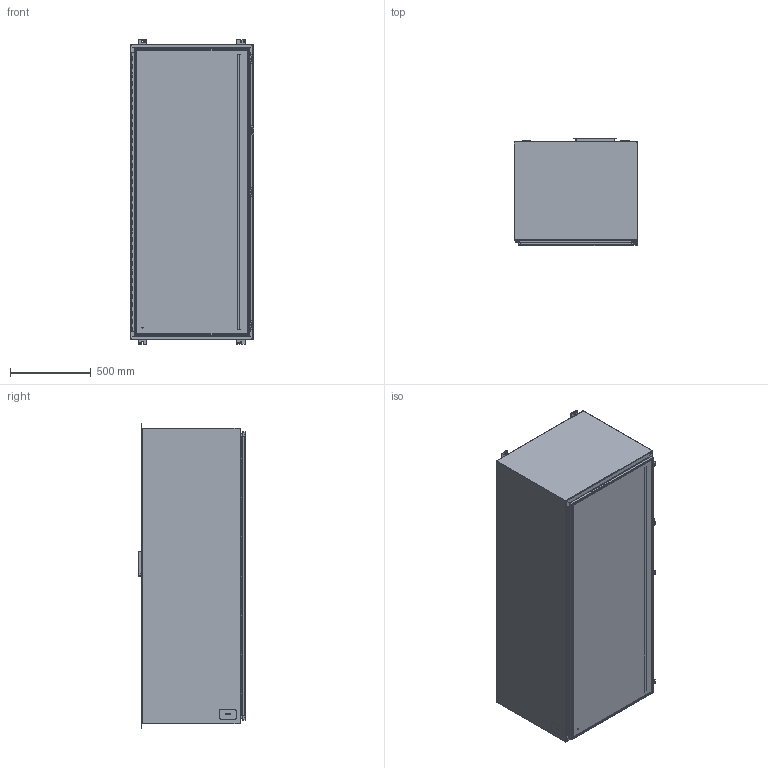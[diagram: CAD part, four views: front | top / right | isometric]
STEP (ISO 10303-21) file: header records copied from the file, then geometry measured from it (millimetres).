
FILE_DESCRIPTION(/* description */ ('Unknown'),/* implementation_level */ '2;1');
FILE_NAME(/* name */ '1418U24LP',/* time_stamp */ '2026-02-20T16:38:28-05:00',/* author */ ('Unknown'),/* organization */ ('Unknown'),/* preprocessor_version */ 'ST-DEVELOPER v18.104',/* originating_system */ 'Solid Edge',/* authorisation */ 'Unknown');
FILE_SCHEMA (('AUTOMOTIVE_DESIGN {1 0 10303 214 3 1 1}'));
Length unit declared in the file: millimetre
Products named in the file (32): 1418U24LP; STD26094; STD21878; COM42780; AKT90223; SPR20265; SCC19011; WAF25035; COM42667; COM40153-1; COM71781-1; COM40153-2; COM70219_oa_0; PNT11078; COM54746-68; COM53845-5; COM48505; FET07710; BUL10020; QLB30109; PKT99; KIT90256; LAB30005; NTS165305; NTS16535; KIT90519; WAF25059; NTS166105; COM48531; QLB20254; COM71680-4
Assembly tree (46 placements, depth 3):
  1418U24LP
    STD26094  x6
    STD21878
    COM42780  x3
    AKT90223  x3
      SPR20265
      SCC19011
      WAF25035
      COM42667
    COM40153-1
    COM71781-1
      COM40153-2
      COM71781-1
      STD21878
      COM70219_oa_0
      PNT11078
      COM54746-68
      COM53845-5
    COM48505
    FET07710  x4
    BUL10020
    QLB30109
    PKT99
    KIT90256
      LAB30005
      NTS165305
      NTS16535
    KIT90519
      WAF25059
      NTS166105
    COM48531  x2
    PNT11078
    QLB20254
    COM71680-4
Bounding box: 765.17 x 663.58 x 1885.95 mm (x, y, z)
Volume: 12119375.7 mm3; surface area: 13302089.8 mm2
Topology: 46 solids, 47 shells, 1726 faces, 4532 edges, 2958 vertices
Faces by surface type: plane 1073, cylinder 528, bspline 69, torus 28, cone 26, sphere 2
Full cylindrical faces by diameter (mm): 2.54 x1, 3.175 x1, 4.976 x1, 5.41 x3, 6.198 x3, 6.35 x3, 6.731 x3, 7.137 x2, 7.722 x12, 7.805 x1, 7.938 x4, 8.382 x6, 9.525 x6, 9.906 x3, 11.113 x4, 11.303 x1, 12.7 x3, 16.51 x6, 25.4 x1, 88.9 x1
Entity records: 43172 total; most frequent: CARTESIAN_POINT 11939, ORIENTED_EDGE 6374, DIRECTION 6049, EDGE_CURVE 3187, VERTEX_POINT 2102, LINE 2045, VECTOR 2045, AXIS2_PLACEMENT_3D 2002
